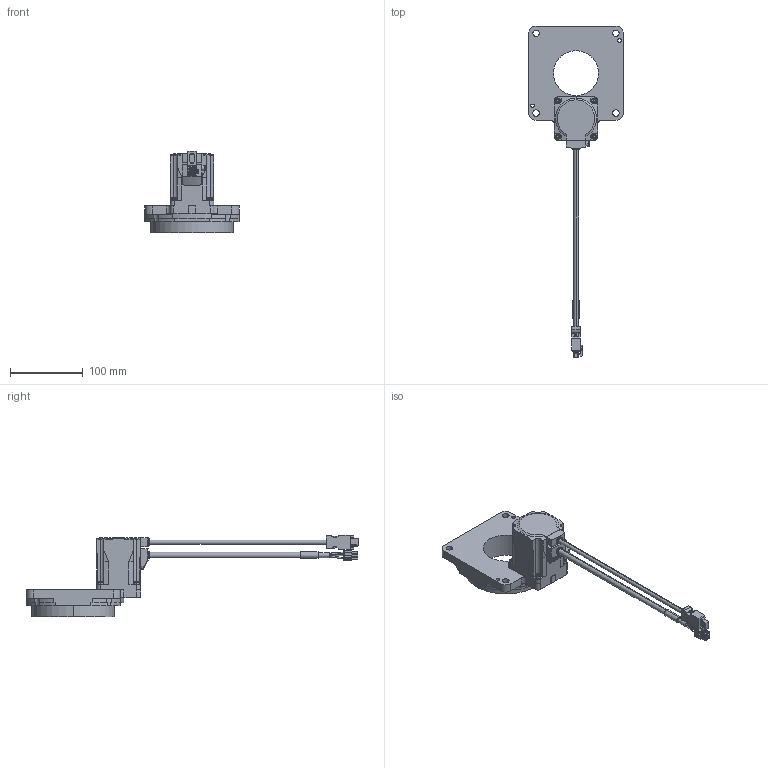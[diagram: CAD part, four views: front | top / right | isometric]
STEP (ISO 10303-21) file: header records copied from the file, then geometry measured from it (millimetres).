
FILE_DESCRIPTION (( 'STEP AP203' ), '1' );
FILE_NAME ('DGM130R-AZAC.STEP', '2015-07-23T02:16:24', ( 'om' ), ( 'Hewlett-Packard Company' ), 'SwSTEP 2.0', 'SolidWorks 2014', '' );
FILE_SCHEMA (( 'CONFIG_CONTROL_DESIGN' ));
Length unit declared in the file: millimetre
Products named in the file (1): DGM130R-AZAC
Bounding box: 130 x 457.7 x 111.9 mm (x, y, z)
Volume: 652954.7 mm3; surface area: 100973.3 mm2
Topology: 1 solids, 11 shells, 873 faces, 2304 edges, 1490 vertices
Faces by surface type: plane 559, cylinder 242, cone 38, torus 17, bspline 15, sphere 2
Entity records: 28313 total; most frequent: CARTESIAN_POINT 6383, ORIENTED_EDGE 4568, DIRECTION 4470, EDGE_CURVE 2284, LINE 1658, VECTOR 1658, VERTEX_POINT 1490, AXIS2_PLACEMENT_3D 1406
